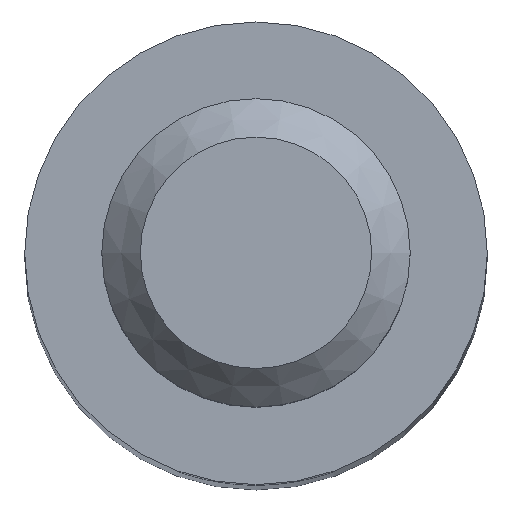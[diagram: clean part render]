
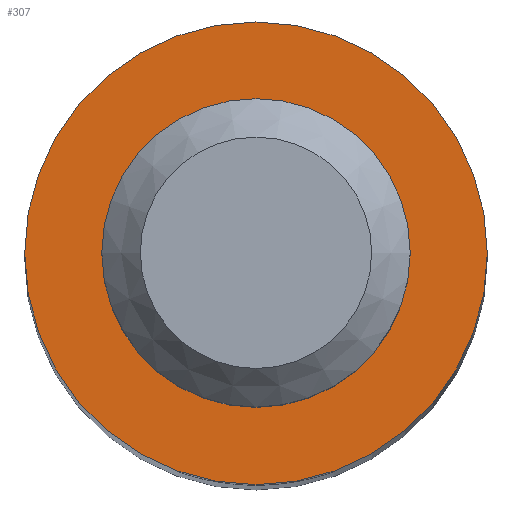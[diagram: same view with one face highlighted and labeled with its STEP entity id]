
A CAD part, top view. The second image highlights one B-rep face of the part: STEP entity #307.
In plain terms, the highlighted planar face has unit normal (0, 0, 1).
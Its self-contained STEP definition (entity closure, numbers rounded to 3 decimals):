
#77=CARTESIAN_POINT('',(3.,0.,40.0));
#78=VERTEX_POINT('',#77);
#79=CARTESIAN_POINT('',(0.0,0.0,40.0));
#80=DIRECTION('',(0.0,0.0,-1.0));
#81=DIRECTION('',(-1.0,0.0,0.0));
#82=AXIS2_PLACEMENT_3D('',#79,#80,#81);
#83=CIRCLE('',#82,3.);
#84=EDGE_CURVE('',#78,#78,#83,.T.);
#272=CARTESIAN_POINT('',(1.5,0.,40.0));
#273=VERTEX_POINT('',#272);
#274=CARTESIAN_POINT('',(0.0,0.0,40.0));
#275=DIRECTION('',(0.0,0.0,1.0));
#276=DIRECTION('',(-1.0,0.0,0.0));
#277=AXIS2_PLACEMENT_3D('',#274,#275,#276);
#278=CIRCLE('',#277,1.5);
#279=EDGE_CURVE('',#273,#273,#278,.T.);
#296=CARTESIAN_POINT('',(0.0,0.0,40.0));
#297=DIRECTION('',(0.0,0.0,1.0));
#298=DIRECTION('',(1.0,0.0,0.0));
#299=AXIS2_PLACEMENT_3D('',#296,#297,#298);
#300=PLANE('',#299);
#301=ORIENTED_EDGE('',*,*,#84,.F.);
#302=EDGE_LOOP('',(#301));
#303=FACE_OUTER_BOUND('',#302,.T.);
#304=ORIENTED_EDGE('',*,*,#279,.F.);
#305=EDGE_LOOP('',(#304));
#306=FACE_BOUND('',#305,.T.);
#307=ADVANCED_FACE('',(#303,#306),#300,.T.);
